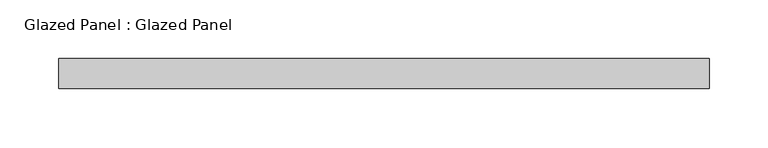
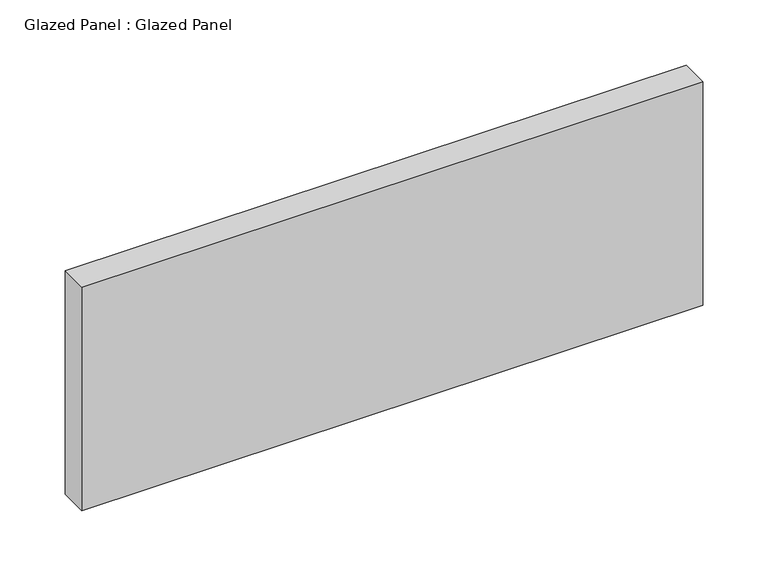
"""IFC4 building model written with IfcOpenShell, lengths in millimetres: plate geometry, Glazed Panel : Glazed Panel."""

from ifc_helpers import new_model, si_unit, origin, origin_with_axes, place, context, project, spatial, polyline, outline, extrude, source, transform, mapped, element, save


def glazed_panel_glazed_panel_86524bdb(model_context):
    return source(origin(), model_context, "Body", "SweptSolid", [
        extrude(outline(polyline([(275.43125, 38.1), (-275.43125, 38.1), (-275.43125, 63.5), (275.43125, 63.5), (275.43125, 38.1)])), origin_with_axes(), (0.0, 0.0, 1.0), 209.55),
    ])


if __name__ == "__main__":
    model = new_model("IFC4")
    model_context = context("Model", 3, world=origin())
    ifc_project = project(units=[si_unit("LENGTHUNIT", "METRE", prefix="MILLI")], contexts=[model_context])
    site = spatial("IfcSite", under=ifc_project)
    building = spatial("IfcBuilding", under=site)
    placement = place(None, origin())
    glazed_panel_glazed_panel_shape = glazed_panel_glazed_panel_86524bdb(model_context)
    element("IfcPlate", 1, ObjectType="Glazed Panel : Glazed Panel", at=placement, inside=building, context=model_context, shape_type="MappedRepresentation", body=[
        mapped(glazed_panel_glazed_panel_shape, transform((0.0, 0.0, 0.0), x_axis=(1.0, 0.0, 0.0), y_axis=(0.0, 1.0, 0.0), z_axis=(0.0, 0.0, 1.0))),
    ])
    save(model, "model.ifc")
